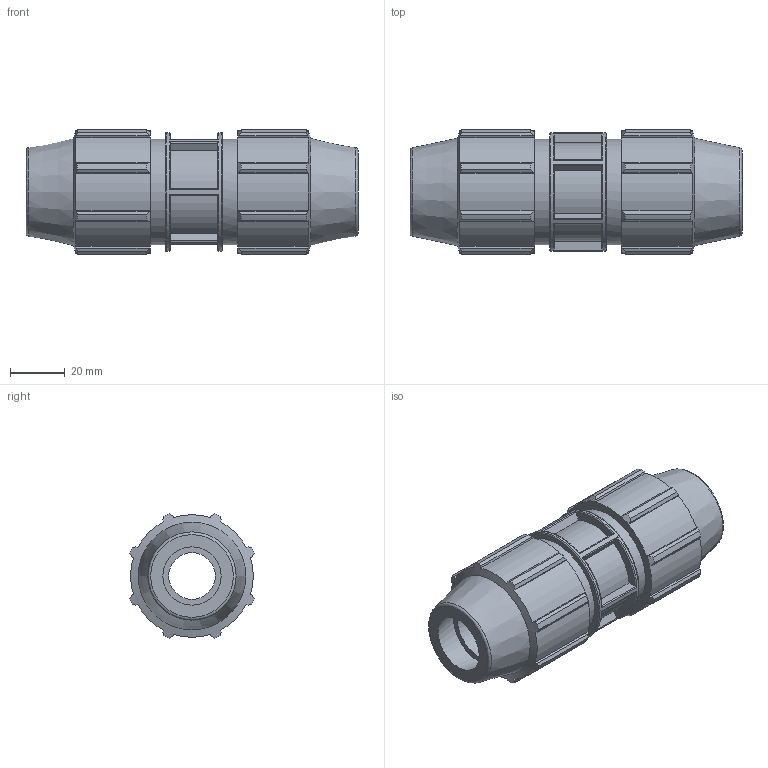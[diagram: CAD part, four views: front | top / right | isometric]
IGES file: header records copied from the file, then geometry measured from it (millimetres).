
Global section: file name: 0701M005.ipt; native system: Autodesk Inventor 2019; preprocessor: unknown; author: KIM; date: 20210826.124345; units: inch
Bounding box: 120.9 x 45.17 x 45.17 mm (x, y, z)
Volume: 116804 mm3; surface area: 29145.9 mm2
Topology: 1 solids, 1 shells, 193 faces, 546 edges, 368 vertices
Faces by surface type: plane 98, cylinder 53, revolution 22, cone 20
Full cylindrical faces by diameter (mm): 38.405 x2, 43.205 x1
